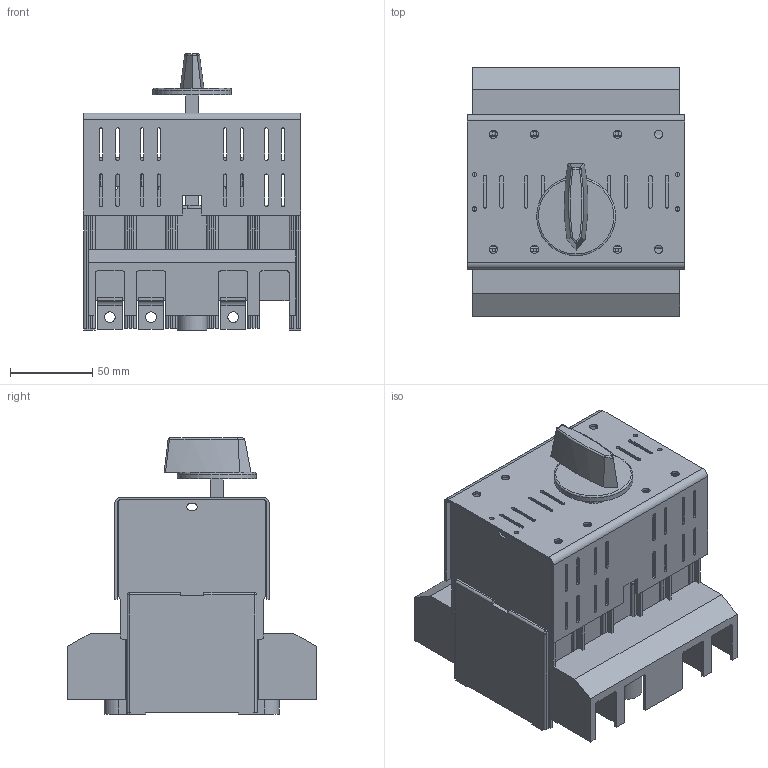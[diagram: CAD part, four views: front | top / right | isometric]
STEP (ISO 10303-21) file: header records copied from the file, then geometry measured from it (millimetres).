
FILE_DESCRIPTION(/* description */ (''),/* implementation_level */ '2;1');
FILE_NAME(/* name */ 'RAB 000 P3 A-R z oslona zaciskow.stp',/* time_stamp */ '2021-08-19T09:35:10+02:00',/* author */ (''),/* organization */ (''),/* preprocessor_version */ 'ST-DEVELOPER v18.1',/* originating_system */ 'SIEMENS PLM Software NX 1965',/* authorisation */ '');
FILE_SCHEMA (('AUTOMOTIVE_DESIGN { 1 0 10303 214 3 1 1 1 }'));
Length unit declared in the file: millimetre
Products named in the file (1): RAB 000 P3 A-R z oslona zaciskow
Bounding box: 132.5 x 151.03 x 168 mm (x, y, z)
Volume: 791279.5 mm3; surface area: 263319.1 mm2
Topology: 1 solids, 1 shells, 1171 faces, 3395 edges, 2203 vertices
Faces by surface type: plane 760, cylinder 330, extrusion 48, sphere 25, bspline 7, torus 1
Full cylindrical faces by diameter (mm): 2.7 x4, 5 x8, 5.8 x2, 6.5 x6, 10 x2, 11.5 x2, 20 x1, 48 x1
Entity records: 38963 total; most frequent: CARTESIAN_POINT 7950, ORIENTED_EDGE 6652, DIRECTION 6124, EDGE_CURVE 3326, VECTOR 2566, LINE 2518, VERTEX_POINT 2172, AXIS2_PLACEMENT_3D 1779
